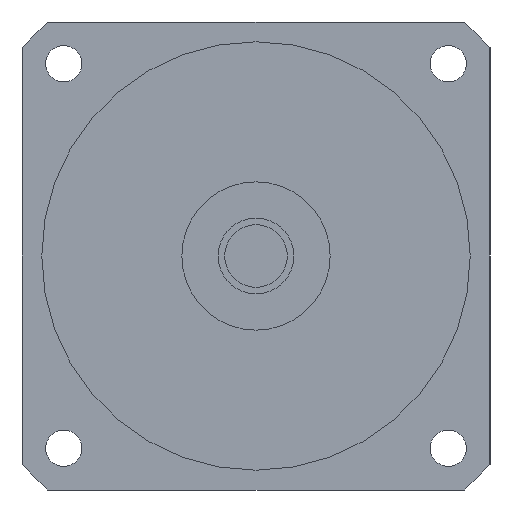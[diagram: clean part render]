
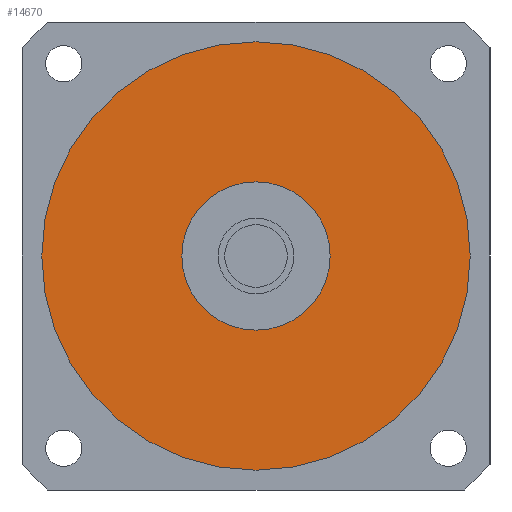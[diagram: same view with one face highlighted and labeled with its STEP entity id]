
A CAD part, left-side view. The second image highlights one B-rep face of the part: STEP entity #14670.
In plain terms, the highlighted planar face has unit normal (-1, 0, 0) as drawn and (0, 0, -1) by its records, which use the part's own axes.
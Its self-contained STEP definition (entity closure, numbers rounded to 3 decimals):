
#14150=CARTESIAN_POINT('',(-65.,0.,-38.7));
#14160=VERTEX_POINT('',#14150);
#14240=CARTESIAN_POINT('',(65.,0.,-38.7));
#14250=VERTEX_POINT('',#14240);
#14280=CARTESIAN_POINT('',(0.,0.,
-38.7));
#14290=DIRECTION('',(0.,0.,1.));
#14300=DIRECTION('',(1.,0.,0.));
#14310=AXIS2_PLACEMENT_3D('',#14280,#14290,#14300);
#14320=CIRCLE('',#14310,65.);
#14330=EDGE_CURVE('',#14160,#14250,#14320,.T.);
#14380=CARTESIAN_POINT('',(0.,0.,
-38.7));
#14390=DIRECTION('',(0.,0.,1.));
#14400=DIRECTION('',(-1.,0.,0.));
#14410=AXIS2_PLACEMENT_3D('',#14380,#14390,#14400);
#14420=PLANE('',#14410);
#14430=CARTESIAN_POINT('',(0.,0.,
-38.7));
#14440=DIRECTION('',(0.,0.,1.));
#14450=DIRECTION('',(0.,1.,0.));
#14460=AXIS2_PLACEMENT_3D('',#14430,#14440,#14450);
#14470=CIRCLE('',#14460,22.5);
#14480=CARTESIAN_POINT('',(-22.5,0.,-38.7));
#14490=VERTEX_POINT('',#14480);
#14500=CARTESIAN_POINT('',(22.5,0.,-38.7));
#14510=VERTEX_POINT('',#14500);
#14520=EDGE_CURVE('',#14490,#14510,#14470,.T.);
#14530=ORIENTED_EDGE('',*,*,#14520,.T.);
#14540=CARTESIAN_POINT('',(0.,22.5,-38.7));
#14550=VERTEX_POINT('',#14540);
#14560=EDGE_CURVE('',#14550,#14490,#14470,.T.);
#14570=ORIENTED_EDGE('',*,*,#14560,.T.);
#14580=EDGE_CURVE('',#14510,#14550,#14470,.T.);
#14590=ORIENTED_EDGE('',*,*,#14580,.T.);
#14600=EDGE_LOOP('',(#14590,#14570,#14530));
#14610=FACE_BOUND('',#14600,.T.);
#14620=EDGE_CURVE('',#14250,#14160,#14320,.T.);
#14630=ORIENTED_EDGE('',*,*,#14620,.F.);
#14640=ORIENTED_EDGE('',*,*,#14330,.F.);
#14650=EDGE_LOOP('',(#14640,#14630));
#14660=FACE_OUTER_BOUND('',#14650,.T.);
#14670=ADVANCED_FACE('',(#14610,#14660),#14420,.F.);
